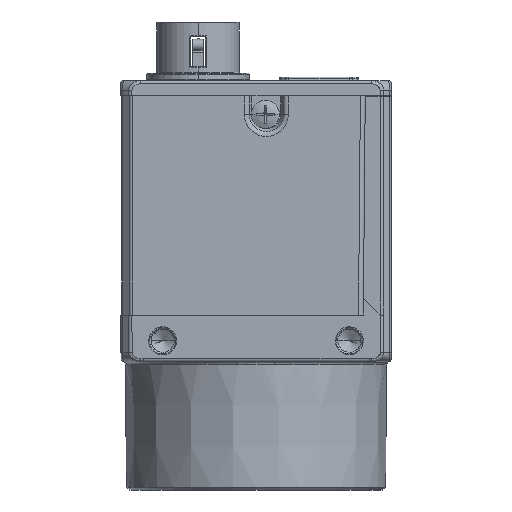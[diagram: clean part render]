
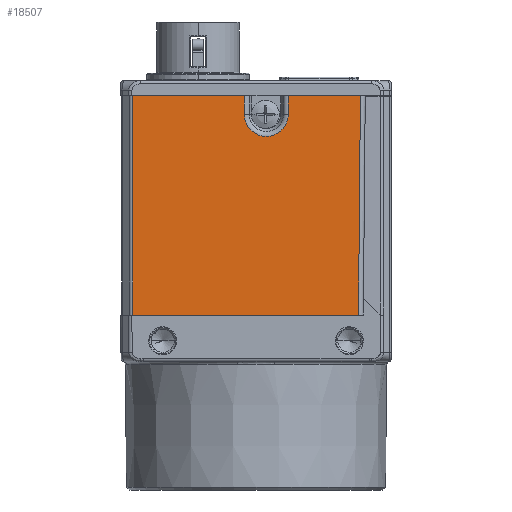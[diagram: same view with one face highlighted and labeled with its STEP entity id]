
A CAD part, left-side view. The second image highlights one B-rep face of the part: STEP entity #18507.
In plain terms, the highlighted planar face has unit normal (-1, 0, 0).
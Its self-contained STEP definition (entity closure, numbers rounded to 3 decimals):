
#16370=DIRECTION('',(0.,0.,-1.));
#16371=VECTOR('',#16370,23.5);
#16372=CARTESIAN_POINT('',(-14.5,13.193,23.));
#16373=LINE('',#16372,#16371);
#16378=DIRECTION('',(0.,-0.009,1.));
#16379=VECTOR('',#16378,23.501);
#16380=CARTESIAN_POINT('',(-14.5,-10.98,-0.5));
#16381=LINE('',#16380,#16379);
#16382=CARTESIAN_POINT('',(-14.5,-1.1,21.));
#16383=DIRECTION('',(1.,0.,0.));
#16384=DIRECTION('',(0.,-1.,0.));
#16385=AXIS2_PLACEMENT_3D('',#16382,#16383,#16384);
#16555=DIRECTION('',(0.,1.,0.));
#16556=VECTOR('',#16555,7.727);
#16557=CARTESIAN_POINT('',(-14.5,-11.185,23.));
#16558=LINE('',#16557,#16556);
#16577=DIRECTION('',(0.,0.,-1.));
#16578=VECTOR('',#16577,2.);
#16579=CARTESIAN_POINT('',(-14.5,-3.458,23.));
#16580=LINE('',#16579,#16578);
#16590=DIRECTION('',(0.,0.,1.));
#16591=VECTOR('',#16590,2.);
#16592=CARTESIAN_POINT('',(-14.5,1.258,21.));
#16593=LINE('',#16592,#16591);
#16617=DIRECTION('',(0.,1.,0.));
#16618=VECTOR('',#16617,11.935);
#16619=CARTESIAN_POINT('',(-14.5,1.258,23.));
#16620=LINE('',#16619,#16618);
#17027=DIRECTION('',(0.,1.,0.));
#17028=VECTOR('',#17027,24.173);
#17029=CARTESIAN_POINT('',(-14.5,-10.98,-0.5));
#17030=LINE('',#17029,#17028);
#17595=CARTESIAN_POINT('',(-14.5,13.193,-0.5));
#17596=VERTEX_POINT('',#17595);
#17597=CARTESIAN_POINT('',(-14.5,13.193,23.));
#17598=VERTEX_POINT('',#17597);
#17599=CARTESIAN_POINT('',(-14.5,-10.98,-0.5));
#17600=CARTESIAN_POINT('',(-14.5,-11.185,23.));
#17601=VERTEX_POINT('',#17599);
#17602=VERTEX_POINT('',#17600);
#17603=CARTESIAN_POINT('',(-14.5,1.258,23.));
#17604=VERTEX_POINT('',#17603);
#17605=CARTESIAN_POINT('',(-14.5,1.258,21.));
#17606=VERTEX_POINT('',#17605);
#17607=CARTESIAN_POINT('',(-14.5,-3.458,21.));
#17608=VERTEX_POINT('',#17607);
#17609=CARTESIAN_POINT('',(-14.5,-3.458,23.));
#17610=VERTEX_POINT('',#17609);
#18485=CARTESIAN_POINT('',(-14.5,1.004,11.25));
#18486=DIRECTION('',(1.,0.,0.));
#18487=DIRECTION('',(0.,-1.,0.));
#18488=AXIS2_PLACEMENT_3D('',#18485,#18486,#18487);
#18489=PLANE('',#18488);
#18491=ORIENTED_EDGE('',*,*,#18490,.F.);
#18493=ORIENTED_EDGE('',*,*,#18492,.T.);
#18494=ORIENTED_EDGE('',*,*,#18476,.F.);
#18496=ORIENTED_EDGE('',*,*,#18495,.F.);
#18498=ORIENTED_EDGE('',*,*,#18497,.F.);
#18500=ORIENTED_EDGE('',*,*,#18499,.F.);
#18502=ORIENTED_EDGE('',*,*,#18501,.F.);
#18504=ORIENTED_EDGE('',*,*,#18503,.F.);
#18505=EDGE_LOOP('',(#18491,#18493,#18494,#18496,#18498,#18500,#18502,#18504));
#18506=FACE_OUTER_BOUND('',#18505,.F.);
#18507=ADVANCED_FACE('',(#18506),#18489,.F.);
#16386=CIRCLE('',#16385,2.358);
#18476=EDGE_CURVE('',#17598,#17596,#16373,.T.);
#18490=EDGE_CURVE('',#17601,#17602,#16381,.T.);
#18492=EDGE_CURVE('',#17601,#17596,#17030,.T.);
#18495=EDGE_CURVE('',#17604,#17598,#16620,.T.);
#18497=EDGE_CURVE('',#17606,#17604,#16593,.T.);
#18499=EDGE_CURVE('',#17608,#17606,#16386,.T.);
#18501=EDGE_CURVE('',#17610,#17608,#16580,.T.);
#18503=EDGE_CURVE('',#17602,#17610,#16558,.T.);
